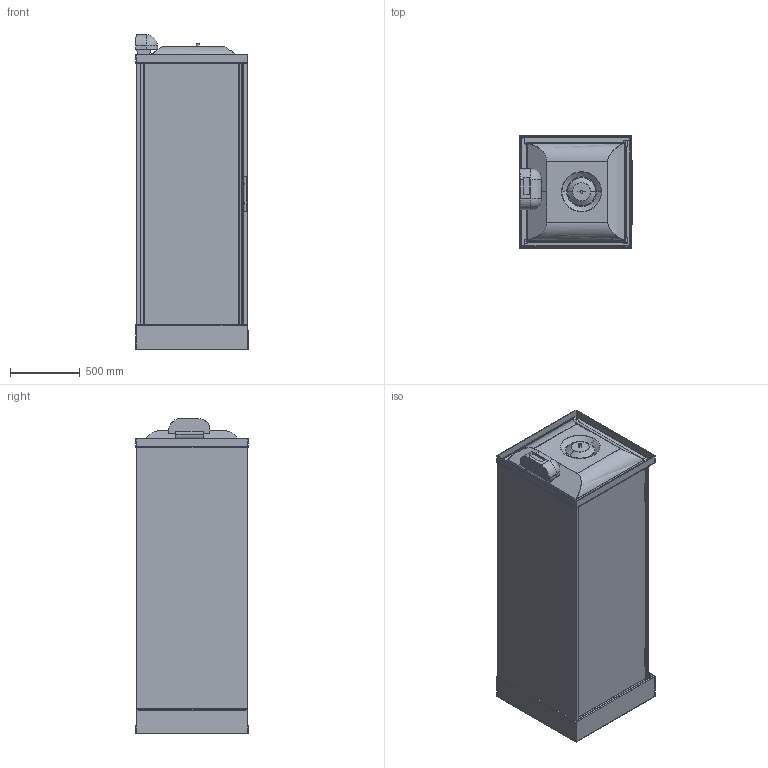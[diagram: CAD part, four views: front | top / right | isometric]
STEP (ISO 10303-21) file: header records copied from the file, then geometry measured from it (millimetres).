
FILE_DESCRIPTION(('STEP AP203'),'2;1');
FILE_NAME('NNH GF 80 M 19 N.stp','2015-09-04T15:26:10',(''),(''),'2014.1.117','THINKDESIGN','');
FILE_SCHEMA(('CONFIG_CONTROL_DESIGN'));
Length unit declared in the file: millimetre
Products named in the file (1): top
Bounding box: 807.53 x 804.03 x 2254.33 mm (x, y, z)
Volume: 182765417.3 mm3; surface area: 18664190.8 mm2
Topology: 45 solids, 45 shells, 840 faces, 2017 edges, 1279 vertices
Faces by surface type: bspline 393, plane 318, cylinder 129
Entity records: 77015 total; most frequent: CARTESIAN_POINT 60046, ORIENTED_EDGE 3996, DIRECTION 2510, EDGE_CURVE 1998, VERTEX_POINT 1279, VECTOR 904, LINE 904, EDGE_LOOP 875
